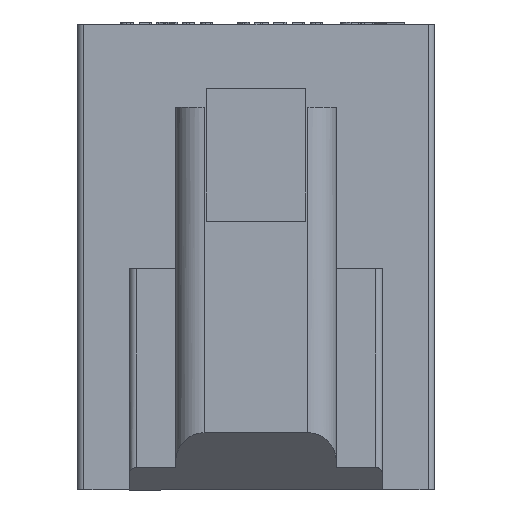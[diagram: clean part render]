
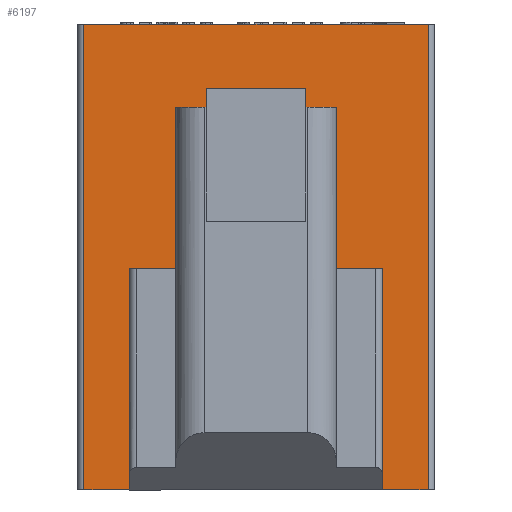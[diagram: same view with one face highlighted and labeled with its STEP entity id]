
A CAD part, front view. The second image highlights one B-rep face of the part: STEP entity #6197.
In plain terms, the highlighted planar face has unit normal (0, -1, 0).
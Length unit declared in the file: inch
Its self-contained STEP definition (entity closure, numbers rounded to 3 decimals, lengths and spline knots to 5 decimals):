
#4872=CARTESIAN_POINT('',(0.5525,-1.055,0.119));
#4873=VERTEX_POINT('',#4872);
#4880=CARTESIAN_POINT('',(0.5525,-1.055,1.084));
#4881=VERTEX_POINT('',#4880);
#4882=CARTESIAN_POINT('',(0.5525,-1.055,1.084));
#4883=DIRECTION('',(0.0,0.0,-1.0));
#4884=VECTOR('',#4883,0.965);
#4885=LINE('',#4882,#4884);
#4886=EDGE_CURVE('',#4881,#4873,#4885,.T.);
#5019=CARTESIAN_POINT('',(-0.5525,-1.055,1.084));
#5020=VERTEX_POINT('',#5019);
#5021=CARTESIAN_POINT('',(-0.5525,-1.055,1.084));
#5022=DIRECTION('',(1.0,0.0,0.0));
#5023=VECTOR('',#5022,1.105);
#5024=LINE('',#5021,#5023);
#5025=EDGE_CURVE('',#5020,#4881,#5024,.T.);
#5119=CARTESIAN_POINT('',(-0.5525,-1.055,0.119));
#5120=VERTEX_POINT('',#5119);
#5121=CARTESIAN_POINT('',(-0.5525,-1.055,0.119));
#5122=DIRECTION('',(0.0,0.0,1.0));
#5123=VECTOR('',#5122,0.965);
#5124=LINE('',#5121,#5123);
#5125=EDGE_CURVE('',#5120,#5020,#5124,.T.);
#6149=CARTESIAN_POINT('',(-0.74998,-1.055,2.149));
#6150=DIRECTION('',(0.0,-1.0,0.0));
#6151=DIRECTION('',(0.0,0.0,1.0));
#6152=AXIS2_PLACEMENT_3D('',#6149,#6150,#6151);
#6153=PLANE('',#6152);
#6154=ORIENTED_EDGE('',*,*,#5125,.T.);
#6155=ORIENTED_EDGE('',*,*,#5025,.T.);
#6156=ORIENTED_EDGE('',*,*,#4886,.T.);
#6157=CARTESIAN_POINT('',(0.74998,-1.055,0.119));
#6158=VERTEX_POINT('',#6157);
#6159=CARTESIAN_POINT('',(0.5525,-1.055,0.119));
#6160=DIRECTION('',(1.0,0.0,0.0));
#6161=VECTOR('',#6160,0.19748);
#6162=LINE('',#6159,#6161);
#6163=EDGE_CURVE('',#4873,#6158,#6162,.T.);
#6164=ORIENTED_EDGE('',*,*,#6163,.T.);
#6165=CARTESIAN_POINT('',(0.74998,-1.055,2.149));
#6166=VERTEX_POINT('',#6165);
#6167=CARTESIAN_POINT('',(0.74998,-1.055,2.149));
#6168=DIRECTION('',(0.0,0.0,-1.0));
#6169=VECTOR('',#6168,2.03);
#6170=LINE('',#6167,#6169);
#6171=EDGE_CURVE('',#6166,#6158,#6170,.T.);
#6172=ORIENTED_EDGE('',*,*,#6171,.F.);
#6173=CARTESIAN_POINT('',(-0.74998,-1.055,2.149));
#6174=VERTEX_POINT('',#6173);
#6175=CARTESIAN_POINT('',(0.74998,-1.055,2.149));
#6176=DIRECTION('',(-1.0,0.0,0.0));
#6177=VECTOR('',#6176,1.49996);
#6178=LINE('',#6175,#6177);
#6179=EDGE_CURVE('',#6166,#6174,#6178,.T.);
#6180=ORIENTED_EDGE('',*,*,#6179,.T.);
#6181=CARTESIAN_POINT('',(-0.74998,-1.055,0.119));
#6182=VERTEX_POINT('',#6181);
#6183=CARTESIAN_POINT('',(-0.74998,-1.055,2.149));
#6184=DIRECTION('',(0.0,0.0,-1.0));
#6185=VECTOR('',#6184,2.03);
#6186=LINE('',#6183,#6185);
#6187=EDGE_CURVE('',#6174,#6182,#6186,.T.);
#6188=ORIENTED_EDGE('',*,*,#6187,.T.);
#6189=CARTESIAN_POINT('',(-0.74998,-1.055,0.119));
#6190=DIRECTION('',(1.0,0.0,0.0));
#6191=VECTOR('',#6190,0.19748);
#6192=LINE('',#6189,#6191);
#6193=EDGE_CURVE('',#6182,#5120,#6192,.T.);
#6194=ORIENTED_EDGE('',*,*,#6193,.T.);
#6195=EDGE_LOOP('',(#6154,#6155,#6156,#6164,#6172,#6180,#6188,#6194));
#6196=FACE_OUTER_BOUND('',#6195,.T.);
#6197=ADVANCED_FACE('',(#6196),#6153,.T.);
